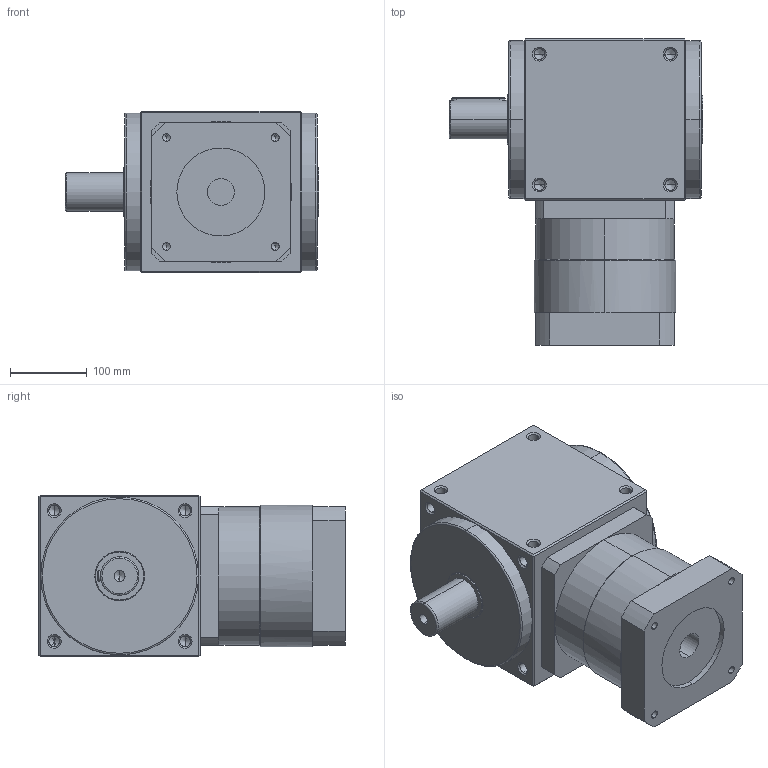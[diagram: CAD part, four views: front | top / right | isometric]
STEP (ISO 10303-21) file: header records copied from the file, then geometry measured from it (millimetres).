
FILE_DESCRIPTION (( 'STEP AP214' ), '1' );
FILE_NAME ('AT210-FL-L2 35-114.STEP', '2020-11-21T02:43:21', ( '微软用户' ), ( '微软中国' ), 'SwSTEP 2.0', 'SolidWorks 2014', '' );
FILE_SCHEMA (( 'AUTOMOTIVE_DESIGN' ));
Length unit declared in the file: millimetre
Products named in the file (2): AT210-FL-L2 35-114
Bounding box: 329 x 398 x 210 mm (x, y, z)
Volume: 15709311.1 mm3; surface area: 532675.3 mm2
Topology: 2 solids, 2 shells, 287 faces, 715 edges, 393 vertices
Faces by surface type: cylinder 120, cone 99, plane 62, torus 6
Entity records: 11358 total; most frequent: CARTESIAN_POINT 1773, DIRECTION 1367, ORIENTED_EDGE 1330, EDGE_CURVE 665, AXIS2_PLACEMENT_3D 527, VERTEX_POINT 393, EDGE_LOOP 322, LINE 313
